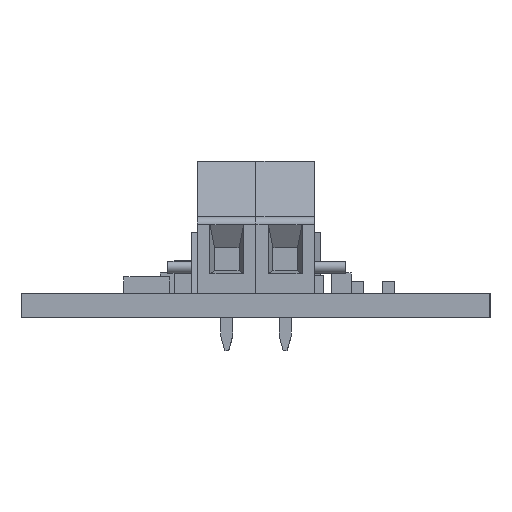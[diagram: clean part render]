
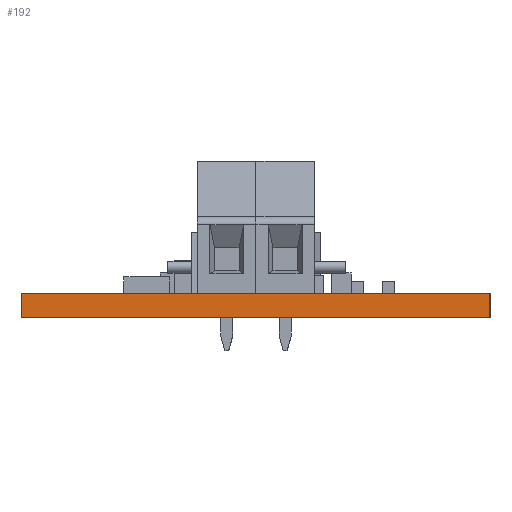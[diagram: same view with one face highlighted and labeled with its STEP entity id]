
A CAD part, left-side view. The second image highlights one B-rep face of the part: STEP entity #192.
In plain terms, the highlighted planar face has unit normal (-1, 0, 0).
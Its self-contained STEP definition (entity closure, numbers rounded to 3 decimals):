
#87 = PLANE('',#88);
#88 = AXIS2_PLACEMENT_3D('',#89,#90,#91);
#89 = CARTESIAN_POINT('',(35.56,30.48,0.));
#90 = DIRECTION('',(0.,-1.,0.));
#91 = DIRECTION('',(-1.,0.,0.));
#112 = VERTEX_POINT('',#113);
#113 = CARTESIAN_POINT('',(0.,30.48,1.575));
#127 = PLANE('',#128);
#128 = AXIS2_PLACEMENT_3D('',#129,#130,#131);
#129 = CARTESIAN_POINT('',(35.56,30.48,1.575));
#130 = DIRECTION('',(0.,0.,-1.));
#131 = DIRECTION('',(-1.,0.,0.));
#139 = EDGE_CURVE('',#140,#112,#142,.T.);
#140 = VERTEX_POINT('',#141);
#141 = CARTESIAN_POINT('',(0.,30.48,0.));
#142 = SURFACE_CURVE('',#143,(#147,#154),.PCURVE_S1.);
#143 = LINE('',#144,#145);
#144 = CARTESIAN_POINT('',(0.,30.48,0.));
#145 = VECTOR('',#146,1.);
#146 = DIRECTION('',(0.,0.,1.));
#147 = PCURVE('',#87,#148);
#148 = DEFINITIONAL_REPRESENTATION('',(#149),#153);
#149 = LINE('',#150,#151);
#150 = CARTESIAN_POINT('',(35.56,0.));
#151 = VECTOR('',#152,1.);
#152 = DIRECTION('',(0.,-1.));
#153 = ( GEOMETRIC_REPRESENTATION_CONTEXT(2) 
PARAMETRIC_REPRESENTATION_CONTEXT() REPRESENTATION_CONTEXT('2D SPACE',''
  ) );
#154 = PCURVE('',#155,#160);
#155 = PLANE('',#156);
#156 = AXIS2_PLACEMENT_3D('',#157,#158,#159);
#157 = CARTESIAN_POINT('',(0.,30.48,0.));
#158 = DIRECTION('',(1.,0.,0.));
#159 = DIRECTION('',(0.,-1.,0.));
#160 = DEFINITIONAL_REPRESENTATION('',(#161),#165);
#161 = LINE('',#162,#163);
#162 = CARTESIAN_POINT('',(0.,0.));
#163 = VECTOR('',#164,1.);
#164 = DIRECTION('',(0.,-1.));
#165 = ( GEOMETRIC_REPRESENTATION_CONTEXT(2) 
PARAMETRIC_REPRESENTATION_CONTEXT() REPRESENTATION_CONTEXT('2D SPACE',''
  ) );
#181 = PLANE('',#182);
#182 = AXIS2_PLACEMENT_3D('',#183,#184,#185);
#183 = CARTESIAN_POINT('',(35.56,30.48,0.));
#184 = DIRECTION('',(0.,0.,-1.));
#185 = DIRECTION('',(-1.,0.,0.));
#192 = ADVANCED_FACE('',(#193),#155,.F.);
#193 = FACE_BOUND('',#194,.F.);
#194 = EDGE_LOOP('',(#195,#196,#219,#247));
#195 = ORIENTED_EDGE('',*,*,#139,.T.);
#196 = ORIENTED_EDGE('',*,*,#197,.T.);
#197 = EDGE_CURVE('',#112,#198,#200,.T.);
#198 = VERTEX_POINT('',#199);
#199 = CARTESIAN_POINT('',(0.,0.,1.575));
#200 = SURFACE_CURVE('',#201,(#205,#212),.PCURVE_S1.);
#201 = LINE('',#202,#203);
#202 = CARTESIAN_POINT('',(0.,30.48,1.575));
#203 = VECTOR('',#204,1.);
#204 = DIRECTION('',(0.,-1.,0.));
#205 = PCURVE('',#155,#206);
#206 = DEFINITIONAL_REPRESENTATION('',(#207),#211);
#207 = LINE('',#208,#209);
#208 = CARTESIAN_POINT('',(0.,-1.575));
#209 = VECTOR('',#210,1.);
#210 = DIRECTION('',(1.,0.));
#211 = ( GEOMETRIC_REPRESENTATION_CONTEXT(2) 
PARAMETRIC_REPRESENTATION_CONTEXT() REPRESENTATION_CONTEXT('2D SPACE',''
  ) );
#212 = PCURVE('',#127,#213);
#213 = DEFINITIONAL_REPRESENTATION('',(#214),#218);
#214 = LINE('',#215,#216);
#215 = CARTESIAN_POINT('',(35.56,0.));
#216 = VECTOR('',#217,1.);
#217 = DIRECTION('',(0.,-1.));
#218 = ( GEOMETRIC_REPRESENTATION_CONTEXT(2) 
PARAMETRIC_REPRESENTATION_CONTEXT() REPRESENTATION_CONTEXT('2D SPACE',''
  ) );
#219 = ORIENTED_EDGE('',*,*,#220,.F.);
#220 = EDGE_CURVE('',#221,#198,#223,.T.);
#221 = VERTEX_POINT('',#222);
#222 = CARTESIAN_POINT('',(0.,0.,0.));
#223 = SURFACE_CURVE('',#224,(#228,#235),.PCURVE_S1.);
#224 = LINE('',#225,#226);
#225 = CARTESIAN_POINT('',(0.,0.,0.));
#226 = VECTOR('',#227,1.);
#227 = DIRECTION('',(0.,0.,1.));
#228 = PCURVE('',#155,#229);
#229 = DEFINITIONAL_REPRESENTATION('',(#230),#234);
#230 = LINE('',#231,#232);
#231 = CARTESIAN_POINT('',(30.48,0.));
#232 = VECTOR('',#233,1.);
#233 = DIRECTION('',(0.,-1.));
#234 = ( GEOMETRIC_REPRESENTATION_CONTEXT(2) 
PARAMETRIC_REPRESENTATION_CONTEXT() REPRESENTATION_CONTEXT('2D SPACE',''
  ) );
#235 = PCURVE('',#236,#241);
#236 = PLANE('',#237);
#237 = AXIS2_PLACEMENT_3D('',#238,#239,#240);
#238 = CARTESIAN_POINT('',(0.,0.,0.));
#239 = DIRECTION('',(0.,1.,0.));
#240 = DIRECTION('',(1.,0.,0.));
#241 = DEFINITIONAL_REPRESENTATION('',(#242),#246);
#242 = LINE('',#243,#244);
#243 = CARTESIAN_POINT('',(0.,0.));
#244 = VECTOR('',#245,1.);
#245 = DIRECTION('',(0.,-1.));
#246 = ( GEOMETRIC_REPRESENTATION_CONTEXT(2) 
PARAMETRIC_REPRESENTATION_CONTEXT() REPRESENTATION_CONTEXT('2D SPACE',''
  ) );
#247 = ORIENTED_EDGE('',*,*,#248,.F.);
#248 = EDGE_CURVE('',#140,#221,#249,.T.);
#249 = SURFACE_CURVE('',#250,(#254,#261),.PCURVE_S1.);
#250 = LINE('',#251,#252);
#251 = CARTESIAN_POINT('',(0.,30.48,0.));
#252 = VECTOR('',#253,1.);
#253 = DIRECTION('',(0.,-1.,0.));
#254 = PCURVE('',#155,#255);
#255 = DEFINITIONAL_REPRESENTATION('',(#256),#260);
#256 = LINE('',#257,#258);
#257 = CARTESIAN_POINT('',(0.,0.));
#258 = VECTOR('',#259,1.);
#259 = DIRECTION('',(1.,0.));
#260 = ( GEOMETRIC_REPRESENTATION_CONTEXT(2) 
PARAMETRIC_REPRESENTATION_CONTEXT() REPRESENTATION_CONTEXT('2D SPACE',''
  ) );
#261 = PCURVE('',#181,#262);
#262 = DEFINITIONAL_REPRESENTATION('',(#263),#267);
#263 = LINE('',#264,#265);
#264 = CARTESIAN_POINT('',(35.56,0.));
#265 = VECTOR('',#266,1.);
#266 = DIRECTION('',(0.,-1.));
#267 = ( GEOMETRIC_REPRESENTATION_CONTEXT(2) 
PARAMETRIC_REPRESENTATION_CONTEXT() REPRESENTATION_CONTEXT('2D SPACE',''
  ) );
